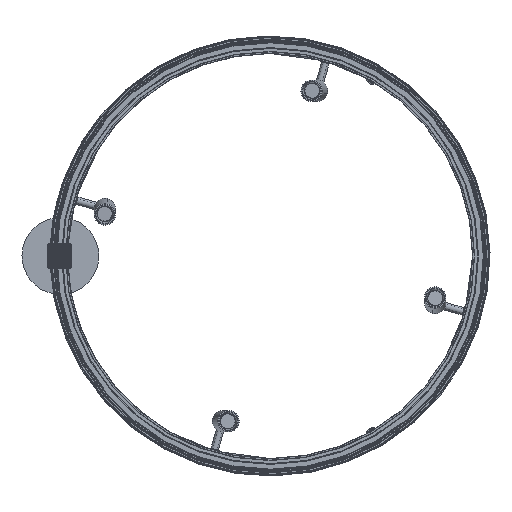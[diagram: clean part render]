
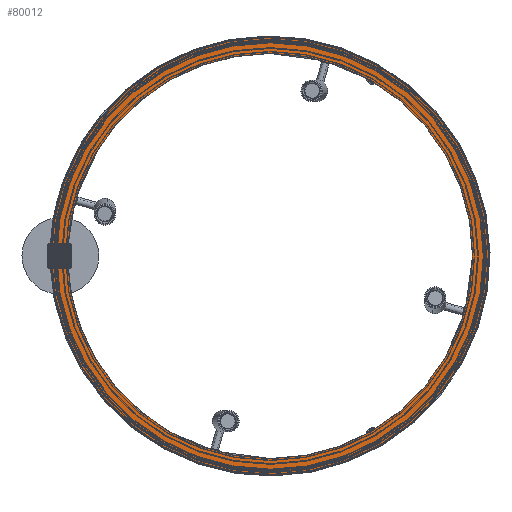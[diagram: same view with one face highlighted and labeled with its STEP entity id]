
A CAD part, left-side view. The second image highlights one B-rep face of the part: STEP entity #80012.
In plain terms, the highlighted planar face has unit normal (-1, 0, 0).
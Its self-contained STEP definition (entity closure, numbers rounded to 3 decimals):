
#3961 = CARTESIAN_POINT ( 'NONE',  ( -15., -237., 0. ) ) ;
#11265 = AXIS2_PLACEMENT_3D ( 'NONE', #3961, #174119, #87158 ) ;
#18292 = CIRCLE ( 'NONE', #89959, 237.3 ) ;
#23576 = FACE_OUTER_BOUND ( 'NONE', #56474, .T. ) ;
#31201 = CARTESIAN_POINT ( 'NONE',  ( -15., -237., 0. ) ) ;
#31613 = ORIENTED_EDGE ( 'NONE', *, *, #156843, .T. ) ;
#35617 = DIRECTION ( 'NONE',  ( 1., 0., 0. ) ) ;
#36719 = DIRECTION ( 'NONE',  ( 0., 0., 1. ) ) ;
#43967 = VERTEX_POINT ( 'NONE', #125426 ) ;
#46160 = DIRECTION ( 'NONE',  ( 0., 0., -1. ) ) ;
#46448 = EDGE_CURVE ( 'NONE', #43967, #167113, #110878, .T. ) ;
#50558 = DIRECTION ( 'NONE',  ( 0., 0., -1. ) ) ;
#53845 = CARTESIAN_POINT ( 'NONE',  ( -15., -237., -237.3 ) ) ;
#56474 = EDGE_LOOP ( 'NONE', ( #68398, #129210 ) ) ;
#67135 = EDGE_CURVE ( 'NONE', #167113, #43967, #184633, .T. ) ;
#68398 = ORIENTED_EDGE ( 'NONE', *, *, #46448, .F. ) ;
#69436 = DIRECTION ( 'NONE',  ( 1., 0., 0. ) ) ;
#74708 = AXIS2_PLACEMENT_3D ( 'NONE', #164796, #80620, #36719 ) ;
#76838 = CARTESIAN_POINT ( 'NONE',  ( -15., -237., 256.595 ) ) ;
#80012 = ADVANCED_FACE ( 'NONE', ( #151687, #23576 ), #135840, .T. ) ;
#80620 = DIRECTION ( 'NONE',  ( -1., 0., 0. ) ) ;
#82509 = CARTESIAN_POINT ( 'NONE',  ( -15., -237., 0. ) ) ;
#87158 = DIRECTION ( 'NONE',  ( 0., 0., -1. ) ) ;
#89092 = AXIS2_PLACEMENT_3D ( 'NONE', #82509, #69436, #98374 ) ;
#89582 = VERTEX_POINT ( 'NONE', #53845 ) ;
#89939 = AXIS2_PLACEMENT_3D ( 'NONE', #31201, #174252, #46160 ) ;
#89959 = AXIS2_PLACEMENT_3D ( 'NONE', #149685, #35617, #50558 ) ;
#98374 = DIRECTION ( 'NONE',  ( 0., 0., -1. ) ) ;
#109761 = CIRCLE ( 'NONE', #11265, 237.3 ) ;
#110878 = CIRCLE ( 'NONE', #89939, 256.595 ) ;
#111926 = ORIENTED_EDGE ( 'NONE', *, *, #134656, .T. ) ;
#125426 = CARTESIAN_POINT ( 'NONE',  ( -15., -237., -256.595 ) ) ;
#129210 = ORIENTED_EDGE ( 'NONE', *, *, #67135, .F. ) ;
#134656 = EDGE_CURVE ( 'NONE', #139188, #89582, #18292, .T. ) ;
#135840 = PLANE ( 'NONE',  #74708 ) ;
#139188 = VERTEX_POINT ( 'NONE', #144292 ) ;
#143804 = EDGE_LOOP ( 'NONE', ( #31613, #111926 ) ) ;
#144292 = CARTESIAN_POINT ( 'NONE',  ( -15., -237., 237.3 ) ) ;
#149685 = CARTESIAN_POINT ( 'NONE',  ( -15., -237., 0. ) ) ;
#151687 = FACE_BOUND ( 'NONE', #143804, .T. ) ;
#156843 = EDGE_CURVE ( 'NONE', #89582, #139188, #109761, .T. ) ;
#164796 = CARTESIAN_POINT ( 'NONE',  ( -15., 19.595, 0. ) ) ;
#167113 = VERTEX_POINT ( 'NONE', #76838 ) ;
#174119 = DIRECTION ( 'NONE',  ( 1., 0., 0. ) ) ;
#174252 = DIRECTION ( 'NONE',  ( 1., 0., 0. ) ) ;
#184633 = CIRCLE ( 'NONE', #89092, 256.595 ) ;
